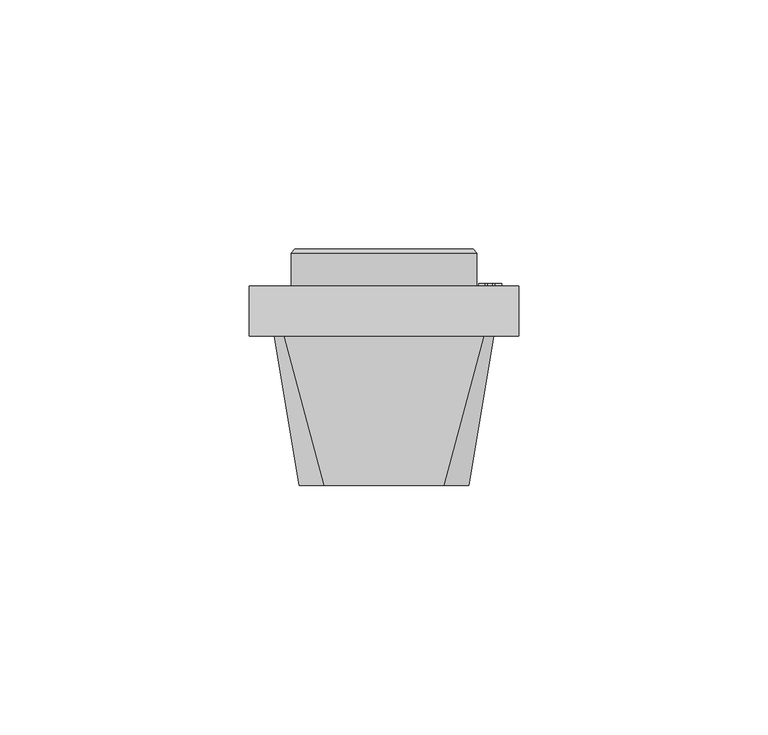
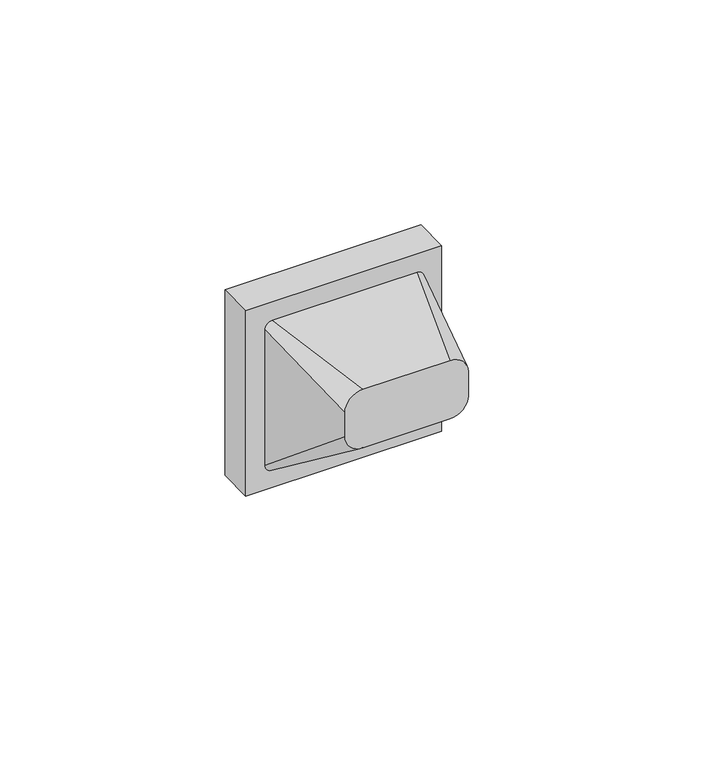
"""IFC4 building model written with IfcOpenShell, lengths in millimetres: proxy geometry, IEK_Brite_Механизм свето-терморегулятора : ТР_ТС10-1-БрА."""

from ifc_helpers import new_model, si_unit, point, frame, frame_2d, origin, place, context, project, spatial, polyline, circle_curve, trimmed, segment, composite_curve, outline, extrude, source, transform, mapped, element, save
from ifc_brep_helpers import plane_surface, cylinder_surface, revolved_surface, spline_surface, advanced_brep


def electrical_fixtures_a90f5210(model_context):
    return source(origin(), model_context, "Body", "SolidModel", [
        extrude(outline(composite_curve([segment(trimmed(circle_curve(frame_2d((0.0, 0.003319)), 17.0578704), [point((17.0578704, 0.003319))], [point((-17.0578704, 0.003319))], False, "CARTESIAN"), True, "CONTINUOUS"), segment(trimmed(circle_curve(frame_2d((0.0, 0.003319)), 17.0578704), [point((-17.0578704, 0.003319))], [point((17.0578704, 0.003319))], False, "CARTESIAN"), True, "CONTINUOUS")], self_intersect=False)), frame((0.0, 16.0217188, 0.0), z_axis=(0.0, 1.0, 0.0), x_axis=(0.0, 0.0, 1.0)), (0.0, 0.0, 1.0), 1.3778649),
        advanced_brep(
        [(0.0, 4.3439145, 0.0), (-18.6103946, 4.3439145, 0.0), (18.6103946, 4.3439145, 0.0), (17.0578708, 16.0217188, 0.0), (-17.0578708, 16.0217188, 0.0), (0.0, 16.0217188, 0.0), (17.0578708, 17.3995837, 0.0), (-17.0578708, 17.3995837, 0.0), (17.8535392, 17.3995837, 0.0), (-17.8535392, 17.3995837, 0.0), (18.6103946, 16.6427283, 0.0), (-18.6103946, 16.6427283, 0.0)],
        [
            (0, 1),
            (1, 2, circle_curve(frame((0.0, 4.3439145, 0.0), z_axis=(0.0, -1.0, 0.0), x_axis=(-1.0, 0.0, 0.0)), 18.6103946)),
            (2, 0),
            (2, 1, circle_curve(frame((0.0, 4.3439145, 0.0), z_axis=(0.0, -1.0, 0.0), x_axis=(-1.0, 0.0, 0.0)), 18.6103946)),
            (3, 4, circle_curve(frame((0.0, 16.0217188, 0.0), z_axis=(0.0, 1.0, 0.0), x_axis=(-1.0, 0.0, 0.0)), 17.0578708)),
            (4, 5),
            (5, 3),
            (4, 3, circle_curve(frame((0.0, 16.0217188, 0.0), z_axis=(0.0, 1.0, 0.0), x_axis=(-1.0, 0.0, 0.0)), 17.0578708)),
            (6, 7, circle_curve(frame((0.0, 17.3995837, 0.0), z_axis=(0.0, 1.0, 0.0), x_axis=(-1.0, 0.0, 0.0)), 17.0578708)),
            (7, 4),
            (3, 6),
            (7, 6, circle_curve(frame((0.0, 17.3995837, 0.0), z_axis=(0.0, 1.0, 0.0), x_axis=(-1.0, 0.0, 0.0)), 17.0578708)),
            (8, 9, circle_curve(frame((0.0, 17.3995837, 0.0), z_axis=(0.0, 1.0, 0.0), x_axis=(-1.0, 0.0, 0.0)), 17.8535392)),
            (9, 7),
            (6, 8),
            (9, 8, circle_curve(frame((0.0, 17.3995837, 0.0), z_axis=(0.0, 1.0, 0.0), x_axis=(-1.0, 0.0, 0.0)), 17.8535392)),
            (10, 11, circle_curve(frame((0.0, 16.6427283, 0.0), z_axis=(0.0, 1.0, 0.0), x_axis=(-1.0, 0.0, 0.0)), 18.6103946)),
            (11, 9),
            (8, 10),
            (11, 10, circle_curve(frame((0.0, 16.6427283, 0.0), z_axis=(0.0, 1.0, 0.0), x_axis=(-1.0, 0.0, 0.0)), 18.6103946)),
            (1, 11),
            (10, 2),
        ],
        [
            plane_surface(frame((0.0, 4.3439145, 0.0), z_axis=(0.0, -1.0, 0.0), x_axis=(-1.0, 0.0, 0.0))),
            plane_surface(frame((0.0, 16.0217188, 0.0), z_axis=(0.0, 1.0, 0.0), x_axis=(-1.0, 0.0, 0.0))),
            revolved_surface(polyline([(-17.0578708, 16.0217188, 0.0), (-17.0578708, 17.3995837, 0.0)]), (0.0, 19.2432057, 0.0), (0.0, -1.0, 0.0)),
            plane_surface(frame((0.0, 17.3995837, 0.0), z_axis=(0.0, 1.0, 0.0), x_axis=(-1.0, 0.0, 0.0))),
            revolved_surface(polyline([(-17.8535392, 17.3995837, 0.0), (-18.6103946, 16.6427283, 0.0)]), (0.0, 19.2432057, 0.0), (0.0, -1.0, 0.0)),
            cylinder_surface(frame((0.0, 19.2432057, 0.0), z_axis=(0.0, -1.0, 0.0), x_axis=(-1.0, 0.0, 0.0)), 18.6103946),
        ],
        [
            (0, [[1, 2, 3]]),
            (0, [[-3, 4, -1]]),
            (1, [[5, 6, 7]]),
            (1, [[8, -7, -6]]),
            (2, [[9, 10, -5, 11]]),
            (2, [[12, -11, -8, -10]]),
            (3, [[13, 14, -9, 15]]),
            (3, [[16, -15, -12, -14]]),
            (4, [[17, 18, -13, 19]]),
            (4, [[20, -19, -16, -18]]),
            (5, [[-2, 21, -17, 22]]),
            (5, [[-4, -22, -20, -21]]),
        ],
    ),
        extrude(outline(polyline([(20.8242234, 10.5), (21.6563513, 10.5), (21.6563513, 10.0), (20.8242234, 10.0), (20.8242234, 10.5)])), frame((0.0, 0.0, 21.0233309), z_axis=(0.0, 0.0, 1.0), x_axis=(1.0, 0.0, 0.0)), (0.0, 0.0, 1.0), 2.9889905),
        extrude(outline(composite_curve([segment(trimmed(circle_curve(frame_2d((21.0969031, 21.2934649)), 2.3080223), [point((23.125197, 20.1921064))], [point((23.1603165, 22.3275307))], False, "CARTESIAN"), True, "CONTINUOUS"), segment(polyline([(23.1603165, 22.3275307), (22.1945547, 22.3275307)]), True, "CONTINUOUS"), segment(trimmed(circle_curve(frame_2d((21.0969031, 21.2934649)), 1.5080223), [point((22.1945547, 22.3275307))], [point((22.1270199, 20.1921064))], True, "CARTESIAN"), True, "CONTINUOUS"), segment(polyline([(22.1270199, 20.1921064), (23.125197, 20.1921064)]), True, "CONTINUOUS")], self_intersect=False)), frame((0.0, 10.0, 0.0), z_axis=(0.0, 1.0, 0.0), x_axis=(0.0, 0.0, 1.0)), (0.0, 0.0, 1.0), 0.5),
        advanced_brep(
        [(-27.0, 10.0, 27.0), (27.0, 10.0, 27.0), (27.0, 10.0, -27.0), (-27.0, 10.0, -27.0), (-19.3454313, 10.0, 0.0), (19.3454313, 10.0, 0.0), (-27.0, 0.0, 27.0), (-27.0, 0.0, -27.0), (27.0, 0.0, -27.0), (27.0, 0.0, 27.0), (19.3454313, 4.3439145, 0.0), (-19.3454313, 4.3439145, 0.0)],
        [
            (0, 1),
            (1, 2),
            (2, 3),
            (3, 0),
            (4, 5, circle_curve(frame((0.0, 10.0, 0.0), z_axis=(0.0, -1.0, 0.0), x_axis=(-1.0, 0.0, 0.0)), 19.3454313)),
            (5, 4, circle_curve(frame((0.0, 10.0, 0.0), z_axis=(0.0, -1.0, 0.0), x_axis=(-1.0, 0.0, 0.0)), 19.3454313)),
            (6, 7),
            (7, 8),
            (8, 9),
            (9, 6),
            (3, 7),
            (6, 0),
            (2, 8),
            (1, 9),
            (10, 11, circle_curve(frame((0.0, 4.3439145, 0.0), z_axis=(0.0, 1.0, 0.0), x_axis=(-1.0, 0.0, 0.0)), 19.3454313)),
            (11, 10, circle_curve(frame((0.0, 4.3439145, 0.0), z_axis=(0.0, 1.0, 0.0), x_axis=(-1.0, 0.0, 0.0)), 19.3454313)),
            (10, 5),
            (4, 11),
        ],
        [
            plane_surface(frame((-27.0, 10.0, -27.0), z_axis=(0.0, 1.0, 0.0), x_axis=(0.0, 0.0, 1.0))),
            plane_surface(frame((-27.0, 0.0, -27.0), z_axis=(0.0, -1.0, 0.0), x_axis=(0.0, 0.0, -1.0))),
            plane_surface(frame((-27.0, 0.0, 27.0), z_axis=(-1.0, 0.0, 0.0), x_axis=(0.0, 1.0, 0.0))),
            plane_surface(frame((-27.0, 0.0, -27.0), z_axis=(0.0, 0.0, -1.0), x_axis=(0.0, 1.0, 0.0))),
            plane_surface(frame((27.0, 0.0, -27.0), z_axis=(1.0, 0.0, 0.0), x_axis=(0.0, 1.0, 0.0))),
            plane_surface(frame((27.0, 0.0, 27.0), z_axis=(0.0, 0.0, 1.0), x_axis=(0.0, 1.0, 0.0))),
            plane_surface(frame((-19.3454313, 4.3439145, 0.0), z_axis=(0.0, 1.0, 0.0), x_axis=(0.0, 0.0, -1.0))),
            revolved_surface(polyline([(-19.3454313, 10.0, 0.0), (-19.3454313, 4.3439145, 0.0)]), (0.0, 4.3439145, 0.0), (0.0, 1.0, 0.0)),
        ],
        [
            (0, [[1, 2, 3, 4], [5, 6]]),
            (1, [[7, 8, 9, 10]]),
            (2, [[-4, 11, -7, 12]]),
            (3, [[-3, 13, -8, -11]]),
            (4, [[-2, 14, -9, -13]]),
            (5, [[-1, -12, -10, -14]]),
            (6, [[15, 16]]),
            (7, [[-15, 17, -5, 18]]),
            (7, [[-16, -18, -6, -17]]),
        ],
    ),
        advanced_brep(
        [(-12.0, -30.0, 17.0), (-17.0, -30.0, 12.0), (-17.0, -30.0, 5.0), (-12.0, -30.0, 0.0), (12.0, -30.0, 0.0), (17.0, -30.0, 5.0), (17.0, -30.0, 12.0), (12.0, -30.0, 17.0), (-20.0, 0.0, 22.0), (20.0, 0.0, 22.0), (22.0, 0.0, 20.0), (22.0, 0.0, -20.0), (20.0, 0.0, -22.0), (-20.0, 0.0, -22.0), (-22.0, 0.0, -20.0), (-22.0, 0.0, 20.0)],
        [
            (0, 1, circle_curve(frame((-12.0, -30.0, 12.0), z_axis=(0.0, -1.0, 0.0), x_axis=(1.0, 0.0, 0.0)), 5.0)),
            (1, 2),
            (2, 3, circle_curve(frame((-12.0, -30.0, 5.0), z_axis=(0.0, -1.0, 0.0), x_axis=(1.0, 0.0, 0.0)), 5.0)),
            (3, 4),
            (4, 5, circle_curve(frame((12.0, -30.0, 5.0), z_axis=(0.0, -1.0, 0.0), x_axis=(1.0, 0.0, 0.0)), 5.0)),
            (5, 6),
            (6, 7, circle_curve(frame((12.0, -30.0, 12.0), z_axis=(0.0, -1.0, 0.0), x_axis=(1.0, 0.0, 0.0)), 5.0)),
            (7, 0),
            (8, 9),
            (9, 10, circle_curve(frame((20.0, 0.0, 20.0), z_axis=(0.0, 1.0, 0.0), x_axis=(1.0, 0.0, 0.0)), 2.0)),
            (10, 11),
            (11, 12, circle_curve(frame((20.0, 0.0, -20.0), z_axis=(0.0, 1.0, 0.0), x_axis=(1.0, 0.0, 0.0)), 2.0)),
            (12, 13),
            (13, 14, circle_curve(frame((-20.0, 0.0, -20.0), z_axis=(0.0, 1.0, 0.0), x_axis=(1.0, 0.0, 0.0)), 2.0)),
            (14, 15),
            (15, 8, circle_curve(frame((-20.0, 0.0, 20.0), z_axis=(0.0, 1.0, 0.0), x_axis=(1.0, 0.0, 0.0)), 2.0)),
            (8, 0),
            (7, 9),
            (6, 10),
            (5, 11),
            (4, 12),
            (3, 13),
            (2, 14),
            (1, 15),
        ],
        [
            plane_surface(frame((0.0, -30.0, 8.5), z_axis=(0.0, -1.0, 0.0), x_axis=(-1.0, 0.0, 0.0))),
            plane_surface(frame((0.0, 0.0, 0.0), z_axis=(0.0, 1.0, 0.0), x_axis=(-1.0, 0.0, 0.0))),
            plane_surface(frame((0.0, 0.0, 22.0), z_axis=(0.0, -0.16439898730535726, 0.9863939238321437), x_axis=(-1.0, 0.0, 0.0))),
            spline_surface(2, 1, [[(22.0, 0.0, 20.0), (17.0, -30.0, 12.0)], [(22.0, 0.0, 22.0), (17.0, -30.0, 17.0)], [(20.0, 0.0, 22.0), (12.0, -30.0, 17.0)]], [3, 3], [2, 2], [0.0, 1.0], [0.0, 1.0], weights=[[1.0, 1.0], [0.7071067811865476, 0.7071067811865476], [1.0, 1.0]]),
            plane_surface(frame((22.0, 0.0, 0.0), z_axis=(0.9863939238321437, -0.1643989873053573, 0.0), x_axis=(0.0, 0.0, 1.0))),
            spline_surface(2, 1, [[(20.0, 0.0, -22.0), (12.0, -30.0, 0.0)], [(22.0, 0.0, -22.0), (17.0, -30.0, 0.0)], [(22.0, 0.0, -20.0), (17.0, -30.0, 5.0)]], [3, 3], [2, 2], [0.0, 1.0], [0.0, 1.0], weights=[[1.0, 1.0], [0.7071067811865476, 0.7071067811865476], [1.0, 1.0]]),
            plane_surface(frame((0.0, 0.0, -22.0), z_axis=(0.0, -0.591363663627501, -0.8064049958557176), x_axis=(1.0, 0.0, 0.0))),
            spline_surface(2, 1, [[(-22.0, 0.0, -20.0), (-17.0, -30.0, 5.0)], [(-22.0, 0.0, -22.0), (-17.0, -30.0, 0.0)], [(-20.0, 0.0, -22.0), (-12.0, -30.0, 0.0)]], [3, 3], [2, 2], [0.0, 1.0], [0.0, 1.0], weights=[[1.0, 1.0], [0.7071067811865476, 0.7071067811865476], [1.0, 1.0]]),
            plane_surface(frame((-22.0, 0.0, 0.0), z_axis=(-0.9863939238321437, -0.1643989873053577, 0.0), x_axis=(0.0, 0.0, -1.0))),
            spline_surface(2, 1, [[(-20.0, 0.0, 22.0), (-12.0, -30.0, 17.0)], [(-22.0, 0.0, 22.0), (-17.0, -30.0, 17.0)], [(-22.0, 0.0, 20.0), (-17.0, -30.0, 12.0)]], [3, 3], [2, 2], [0.0, 1.0], [0.0, 1.0], weights=[[1.0, 1.0], [0.7071067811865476, 0.7071067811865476], [1.0, 1.0]]),
        ],
        [
            (0, [[1, 2, 3, 4, 5, 6, 7, 8]]),
            (1, [[9, 10, 11, 12, 13, 14, 15, 16]]),
            (2, [[-9, 17, -8, 18]]),
            (3, [[-10, -18, -7, 19]]),
            (4, [[-11, -19, -6, 20]]),
            (5, [[-12, -20, -5, 21]]),
            (6, [[-13, -21, -4, 22]]),
            (7, [[-14, -22, -3, 23]]),
            (8, [[-15, -23, -2, 24]]),
            (9, [[-16, -24, -1, -17]]),
        ],
    ),
    ])


if __name__ == "__main__":
    model = new_model("IFC4")
    model_context = context("Model", 3, world=origin())
    ifc_project = project(units=[si_unit("LENGTHUNIT", "METRE", prefix="MILLI")], contexts=[model_context])
    site = spatial("IfcSite", under=ifc_project)
    building = spatial("IfcBuilding", under=site)
    placement = place(None, origin())
    electrical_fixtures_shape = electrical_fixtures_a90f5210(model_context)
    element("IfcBuildingElementProxy", 1, Name="IEK_Brite_Механизм свето-терморегулятора : ТР_ТС10-1-БрА", ObjectType="IEK_Brite_Механизм свето-терморегулятора : ТР_ТС10-1-БрА", at=placement, inside=building, context=model_context, shape_type="MappedRepresentation", body=[
        mapped(electrical_fixtures_shape, transform((0.0, 0.0, 0.0), x_axis=(1.0, 0.0, 0.0), y_axis=(0.0, 1.0, 0.0), z_axis=(0.0, 0.0, 1.0))),
    ])
    save(model, "model.ifc")
